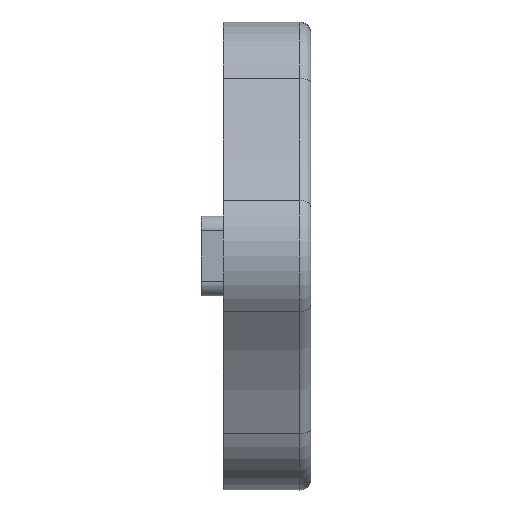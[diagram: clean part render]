
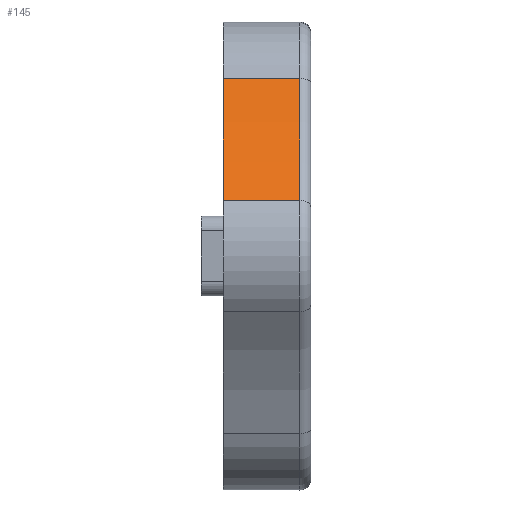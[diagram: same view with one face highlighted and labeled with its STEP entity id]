
A CAD part, front view. The second image highlights one B-rep face of the part: STEP entity #145.
In plain terms, the highlighted cylindrical face has radius 60.445 mm (diameter 120.89 mm), a partial arc.
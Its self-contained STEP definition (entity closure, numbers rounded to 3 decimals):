
#5 = DIRECTION ( 'NONE',  ( -1., 0., 0. ) ) ;
#145 = ADVANCED_FACE ( 'CYL_21', ( #1112 ), #3084, .F. ) ;
#156 = DIRECTION ( 'NONE',  ( -1., 0., 0. ) ) ;
#185 = CIRCLE ( 'NONE', #1290, 60.445 ) ;
#199 = CARTESIAN_POINT ( 'NONE',  ( 3., -32.308, 7.574 ) ) ;
#322 = EDGE_CURVE ( 'NONE', #492, #2741, #1447, .T. ) ;
#492 = VERTEX_POINT ( 'NONE', #1146 ) ;
#498 = ORIENTED_EDGE ( 'NONE', *, *, #322, .T. ) ;
#579 = LINE ( 'NONE', #813, #2976 ) ;
#813 = CARTESIAN_POINT ( 'NONE',  ( 15., -32.308, 7.574 ) ) ;
#899 = ORIENTED_EDGE ( 'NONE', *, *, #1701, .F. ) ;
#1077 = DIRECTION ( 'NONE',  ( 0., 0., -1. ) ) ;
#1111 = ORIENTED_EDGE ( 'NONE', *, *, #2532, .T. ) ;
#1112 = FACE_OUTER_BOUND ( 'NONE', #1978, .T. ) ;
#1146 = CARTESIAN_POINT ( 'NONE',  ( 3., -22.713, 24.193 ) ) ;
#1193 = AXIS2_PLACEMENT_3D ( 'NONE', #1623, #156, #2550 ) ;
#1210 = VERTEX_POINT ( 'NONE', #2470 ) ;
#1290 = AXIS2_PLACEMENT_3D ( 'NONE', #2275, #2999, #1077 ) ;
#1312 = CARTESIAN_POINT ( 'NONE',  ( 13.5, -22.713, 24.193 ) ) ;
#1447 = CIRCLE ( 'NONE', #2760, 60.445 ) ;
#1491 = LINE ( 'NONE', #2890, #2055 ) ;
#1623 = CARTESIAN_POINT ( 'NONE',  ( 15., -79.194, 45.723 ) ) ;
#1701 = EDGE_CURVE ( 'NONE', #1210, #2741, #579, .T. ) ;
#1706 = DIRECTION ( 'NONE',  ( -1., 0., 0. ) ) ;
#1714 = DIRECTION ( 'NONE',  ( 0., 0., 1. ) ) ;
#1829 = EDGE_CURVE ( 'NONE', #1210, #1857, #185, .T. ) ;
#1857 = VERTEX_POINT ( 'NONE', #1312 ) ;
#1978 = EDGE_LOOP ( 'NONE', ( #899, #3023, #1111, #498 ) ) ;
#2055 = VECTOR ( 'NONE', #1706, 1000. ) ;
#2156 = CARTESIAN_POINT ( 'NONE',  ( 3., -79.194, 45.723 ) ) ;
#2275 = CARTESIAN_POINT ( 'NONE',  ( 13.5, -79.194, 45.723 ) ) ;
#2470 = CARTESIAN_POINT ( 'NONE',  ( 13.5, -32.308, 7.574 ) ) ;
#2532 = EDGE_CURVE ( 'NONE', #1857, #492, #1491, .T. ) ;
#2550 = DIRECTION ( 'NONE',  ( 0., 0., 1. ) ) ;
#2669 = DIRECTION ( 'NONE',  ( -1., 0., 0. ) ) ;
#2741 = VERTEX_POINT ( 'NONE', #199 ) ;
#2760 = AXIS2_PLACEMENT_3D ( 'NONE', #2156, #5, #1714 ) ;
#2890 = CARTESIAN_POINT ( 'NONE',  ( 15., -22.713, 24.193 ) ) ;
#2976 = VECTOR ( 'NONE', #2669, 1000. ) ;
#2999 = DIRECTION ( 'NONE',  ( 1., 0., 0. ) ) ;
#3023 = ORIENTED_EDGE ( 'NONE', *, *, #1829, .T. ) ;
#3084 = CYLINDRICAL_SURFACE ( 'NONE', #1193, 60.445 ) ;
